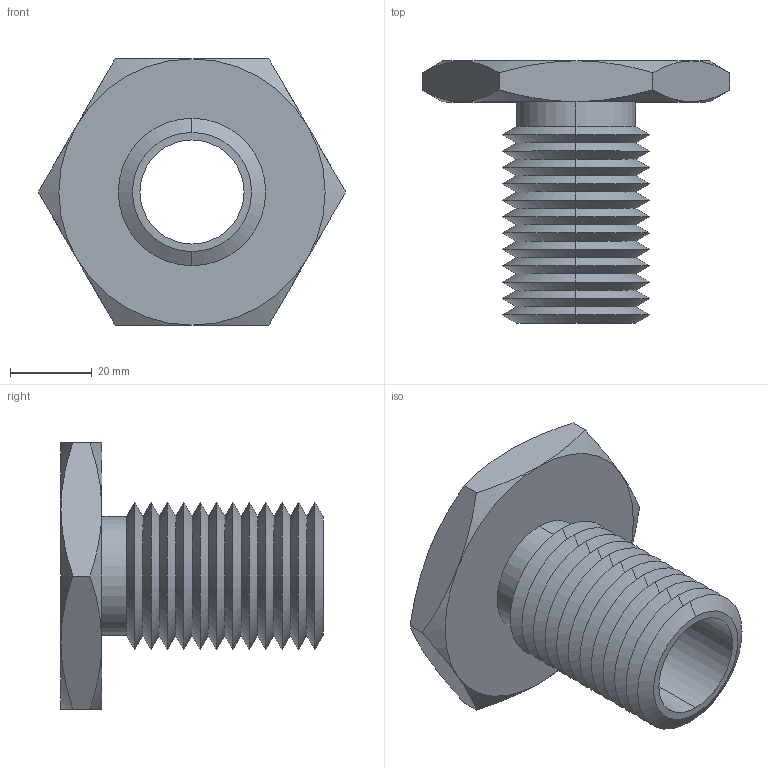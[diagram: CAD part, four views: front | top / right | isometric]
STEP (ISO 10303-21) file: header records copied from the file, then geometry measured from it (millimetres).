
FILE_DESCRIPTION (( 'STEP AP203' ), '1' );
FILE_NAME ('63302.W0036_1,00 UNC-8.step', '2013-12-08T11:12:30', ( 'User' ), ( '' ), 'SwSTEP 2.0', 'SolidWorks 2009', '' );
FILE_SCHEMA (( 'CONFIG_CONTROL_DESIGN' ));
Length unit declared in the file: millimetre
Products named in the file (1): 63302.W0036_1,00 UNC-8
Bounding box: 75.06 x 64 x 65 mm (x, y, z)
Volume: 47169.3 mm3; surface area: 23545.4 mm2
Topology: 1 solids, 1 shells, 75 faces, 154 edges, 82 vertices
Faces by surface type: cone 62, plane 9, cylinder 4
Entity records: 2139 total; most frequent: CARTESIAN_POINT 496, DIRECTION 352, ORIENTED_EDGE 308, EDGE_CURVE 154, AXIS2_PLACEMENT_3D 146, VERTEX_POINT 82, EDGE_LOOP 78, ADVANCED_FACE 75
